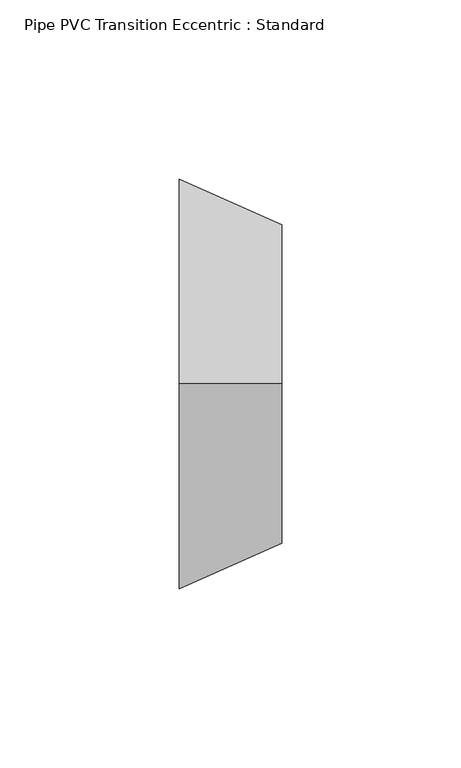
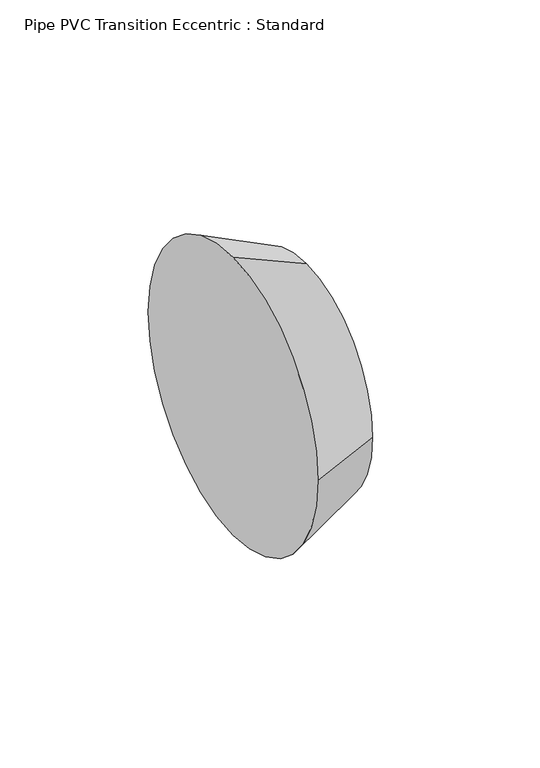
"""IFC4 building model written with IfcOpenShell, lengths in millimetres: pipe fitting geometry, Pipe PVC Transition Eccentric : Standard."""

import ifcopenshell
import ifcopenshell.guid

model = None  # the IFC model being written
_history = None  # IfcOwnerHistory: only IFC2X3 demands one
_inside = {}  # id of a spatial element -> (the spatial element, [elements in it])
_under = {}  # id of a project, library or spatial element -> (it, [spatial elements below it])
_declared = {}  # id of a project -> (the project, [libraries it declares])
_typed = {}  # id of a type object -> (the type object, [elements of that type])
_made_of = {}  # id of a material, layer set ... -> (it, [elements and type objects made of it])


def new_model(schema):
    """Start an empty IFC model of exactly this schema.

    Asked for "IFC4X3", IfcOpenShell would pick the latest addendum, in which some entities
    have other attributes; the version numbers below select the first issue.
    IFC2X3 requires an IfcOwnerHistory on every rooted entity: one is made here for all.
    """
    global model, _history
    if schema == "IFC4X3":
        model = ifcopenshell.file(schema_version=(4, 3, 0, 0))
    else:
        model = ifcopenshell.file(schema=schema)
    _inside.clear()
    _under.clear()
    _declared.clear()
    _typed.clear()
    _made_of.clear()
    _history = None
    if model.schema == "IFC2X3":
        org = make("IfcOrganization", Name="unknown")
        user = make(
            "IfcPersonAndOrganization",
            ThePerson=make("IfcPerson", FamilyName="unknown"),
            TheOrganization=org,
        )
        app = make(
            "IfcApplication",
            ApplicationDeveloper=org,
            Version="unknown",
            ApplicationFullName="unknown",
            ApplicationIdentifier="unknown",
        )
        _history = make(
            "IfcOwnerHistory",
            OwningUser=user,
            OwningApplication=app,
            ChangeAction="ADDED",
            CreationDate=0,
        )
    return model


def make(cls, **values):
    """One entity of the class cls with the attributes given. An attribute that is None is left unset."""
    return model.create_entity(
        cls, **{name: value for name, value in values.items() if value is not None}
    )


def rooted(cls, **values):
    """An entity with a GlobalId (a new one), such as an element, a storey or a relation."""
    return make(cls, GlobalId=ifcopenshell.guid.new(), OwnerHistory=_history, **values)


def si_unit(unit_type, name, prefix=None):
    """IfcSIUnit, for example si_unit("LENGTHUNIT", "METRE", prefix="MILLI")."""
    return make("IfcSIUnit", UnitType=unit_type, Prefix=prefix, Name=name)


def assignment(units):
    """IfcUnitAssignment: the units of a project."""
    return None if units is None else make("IfcUnitAssignment", Units=units)


def point(xyz):
    """IfcCartesianPoint."""
    return None if xyz is None else make("IfcCartesianPoint", Coordinates=xyz)


def direction(xyz):
    """IfcDirection."""
    return None if xyz is None else make("IfcDirection", DirectionRatios=xyz)


def frame(location, z_axis=None, x_axis=None):
    """IfcAxis2Placement3D, a coordinate frame: its origin and axes. An axis left out is left unset."""
    return make(
        "IfcAxis2Placement3D",
        Location=point(location),
        Axis=direction(z_axis),
        RefDirection=direction(x_axis),
    )


def origin():
    """The frame at (0, 0, 0) with its axes left unset."""
    return frame((0.0, 0.0, 0.0))


def place(relative_to, where):
    """IfcLocalPlacement: puts the frame where relative to a parent placement (None: the world)."""
    return make(
        "IfcLocalPlacement", PlacementRelTo=relative_to, RelativePlacement=where
    )


def context(
    kind, dimensions, precision=None, world=None, true_north=None, identifier=None
):
    """IfcGeometricRepresentationContext, for example the 3D "Model" context."""
    return make(
        "IfcGeometricRepresentationContext",
        ContextIdentifier=identifier,
        ContextType=kind,
        CoordinateSpaceDimension=dimensions,
        Precision=precision,
        WorldCoordinateSystem=world,
        TrueNorth=true_north,
    )


def project(units=None, contexts=None):
    """IfcProject with its units and contexts."""
    return rooted(
        "IfcProject",
        Name="project",
        RepresentationContexts=contexts,
        UnitsInContext=assignment(units),
    )


def spatial(cls, under=None, at=None, **own):
    """A site, building, storey or space (cls), placed at a placement, below another one or the project."""
    s = rooted(cls, ObjectPlacement=at, **own)
    if under is not None:
        _under.setdefault(under.id(), (under, []))[1].append(s)
    return s


def polyline(points):
    """IfcPolyline through the points."""
    return make("IfcPolyline", Points=[point(p) for p in points])


def circle_curve(where, radius):
    """IfcCircle in the frame where."""
    return make("IfcCircle", Position=where, Radius=radius)


def shape(context_of_items, identifier, shape_type, items):
    """IfcShapeRepresentation: the items that make up one representation, for example the "Body"."""
    return make(
        "IfcShapeRepresentation",
        ContextOfItems=context_of_items,
        RepresentationIdentifier=identifier,
        RepresentationType=shape_type,
        Items=items,
    )


def source(mapping_origin, context_of_items, identifier, shape_type, items):
    """IfcRepresentationMap: a shape defined once, which mapped items show again and again."""
    return make(
        "IfcRepresentationMap",
        MappingOrigin=mapping_origin,
        MappedRepresentation=shape(context_of_items, identifier, shape_type, items),
    )


def transform(
    local_origin,
    x_axis=None,
    y_axis=None,
    z_axis=None,
    scale=None,
    scale2=None,
    scale3=None,
    uniform=True,
):
    """IfcCartesianTransformationOperator3D, or its non-uniform kind. x_axis, y_axis, z_axis: its Axis1, 2, 3."""
    if uniform:
        return make(
            "IfcCartesianTransformationOperator3D",
            Axis1=direction(x_axis),
            Axis2=direction(y_axis),
            LocalOrigin=point(local_origin),
            Scale=scale,
            Axis3=direction(z_axis),
        )
    return make(
        "IfcCartesianTransformationOperator3DnonUniform",
        Axis1=direction(x_axis),
        Axis2=direction(y_axis),
        LocalOrigin=point(local_origin),
        Scale=scale,
        Axis3=direction(z_axis),
        Scale2=scale2,
        Scale3=scale3,
    )


def mapped(mapping_source, mapping_target):
    """IfcMappedItem: shows the shape of a source again, moved by a transform."""
    return make(
        "IfcMappedItem", MappingSource=mapping_source, MappingTarget=mapping_target
    )


def made_of(thing, what):
    """Note that an element or type object is made of a material, layer set ...; save() writes the relation."""
    if what is not None:
        _made_of.setdefault(what.id(), (what, []))[1].append(thing)
    return thing


def element(
    cls,
    number,
    at=None,
    inside=None,
    cuts=None,
    type_object=None,
    material=None,
    context=None,
    identifier="Body",
    shape_type=None,
    held_by="IfcProductDefinitionShape",
    body=None,
    shapes=None,
    **own,
):
    """One element of the class cls, such as IfcWall. Its Tag is "e" and its number.

    at: its placement. inside: the storey or other place that contains it. cuts: it is an
    opening in that element (IfcRelVoidsElement). A single representation is given by context,
    identifier, shape_type and body (its items); several are given by shapes. held_by: the class
    of the entity that holds the representations. save() writes the other relations.
    """
    e = rooted(cls, Tag="e%d" % number, ObjectPlacement=at, **own)
    if body is not None:
        shapes = [shape(context, identifier, shape_type, body)]
    if shapes is not None:
        e.Representation = make(held_by, Representations=shapes)
    if inside is not None:
        _inside.setdefault(inside.id(), (inside, []))[1].append(e)
    if cuts is not None:
        rooted(
            "IfcRelVoidsElement", RelatingBuildingElement=cuts, RelatedOpeningElement=e
        )
    if type_object is not None:
        _typed.setdefault(type_object.id(), (type_object, []))[1].append(e)
    return made_of(e, material)


def aggregate(whole, parts):
    """IfcRelAggregates: a whole, such as a stair, and the parts it consists of."""
    return rooted("IfcRelAggregates", RelatingObject=whole, RelatedObjects=parts)


def save(model, path):
    """Write the relations noted so far, then the file.

    IfcRelAggregates (storeys below a building ...), IfcRelContainedInSpatialStructure (elements
    in a storey), IfcRelDefinesByType, IfcRelAssociatesMaterial and IfcRelDeclares: one each for
    every whole, place, type object, material and project.
    """
    for whole, parts in _under.values():
        aggregate(whole, parts)
    for where, things in _inside.values():
        rooted(
            "IfcRelContainedInSpatialStructure",
            RelatedElements=things,
            RelatingStructure=where,
        )
    for kind, things in _typed.values():
        rooted("IfcRelDefinesByType", RelatedObjects=things, RelatingType=kind)
    for what, things in _made_of.values():
        rooted("IfcRelAssociatesMaterial", RelatedObjects=things, RelatingMaterial=what)
    for by, libraries in _declared.values():
        rooted("IfcRelDeclares", RelatingContext=by, RelatedDefinitions=libraries)
    model.write(path)


def plane_surface(at):
    """IfcPlane: the flat surface through the origin of the frame at, square to its z axis."""
    return make("IfcPlane", Position=at)


def revolved_surface(curve, axis_point, axis_direction):
    """IfcSurfaceOfRevolution: the curve turned about the line through axis_point along axis_direction."""
    return make(
        "IfcSurfaceOfRevolution",
        SweptCurve=make("IfcArbitraryOpenProfileDef", ProfileType="CURVE", Curve=curve),
        AxisPosition=make("IfcAxis1Placement", Location=point(axis_point), Axis=direction(axis_direction)),
    )


def advanced_brep(points, edges, surfaces, faces):
    """IfcAdvancedBrep: a solid bounded by faces that lie on surfaces and meet in shared edges.

    An edge is (start, end): straight between two places in points (the first is 0);
    or (start, end, curve); or (start, end, curve, False) where it runs against its curve.
    A face is (place in surfaces, loops), or (place, loops, False) where it looks against
    its surface's normal. A loop lists edges by number (the first is 1), with a minus sign
    where the edge is run from its end to its start. The first loop is the outer one.
    """
    corners = [point(p) for p in points]
    vertices = [make("IfcVertexPoint", VertexGeometry=c) for c in corners]
    made = []
    for start, end, *more in edges:
        made.append(
            make(
                "IfcEdgeCurve",
                EdgeStart=vertices[start],
                EdgeEnd=vertices[end],
                EdgeGeometry=more[0] if more else make("IfcPolyline", Points=[corners[start], corners[end]]),
                SameSense=more[1] if len(more) > 1 else True,
            )
        )
    hull = []
    for where, loops, *sense in faces:
        bounds = []
        for j, loop in enumerate(loops):
            ring = [make("IfcOrientedEdge", EdgeElement=made[abs(k) - 1], Orientation=k > 0) for k in loop]
            bounds.append(
                make(
                    "IfcFaceOuterBound" if j == 0 else "IfcFaceBound",
                    Bound=make("IfcEdgeLoop", EdgeList=ring),
                    Orientation=True,
                )
            )
        hull.append(make("IfcAdvancedFace", Bounds=bounds, FaceSurface=surfaces[where], SameSense=sense[0] if sense else True))
    return make("IfcAdvancedBrep", Outer=make("IfcClosedShell", CfsFaces=hull))


def pipe_pvc_transition_eccentric_standard_bb942d7d(model_context):
    return source(origin(), model_context, "Body", "AdvancedBrep", [
        advanced_brep(
        [(28.575, 0.0, 44.45), (28.575, -44.45, 0.0), (28.575, 0.0, -44.45), (28.575, 44.45, 0.0), (0.0, 0.0, 57.15), (0.0, 57.15, 0.0), (0.0, 0.0, -57.15), (0.0, -57.15, 0.0)],
        [
            (0, 1, circle_curve(frame((28.575, 0.0, 0.0), z_axis=(1.0, 0.0, 0.0), x_axis=(0.0, 0.0, 1.0)), 44.45)),
            (1, 2, circle_curve(frame((28.575, 0.0, 0.0), z_axis=(1.0, 0.0, 0.0), x_axis=(0.0, -1.0, 0.0)), 44.45)),
            (2, 3, circle_curve(frame((28.575, 0.0, 0.0), z_axis=(1.0, 0.0, 0.0), x_axis=(0.0, 0.0, -1.0)), 44.45)),
            (3, 0, circle_curve(frame((28.575, 0.0, 0.0), z_axis=(1.0, 0.0, 0.0), x_axis=(0.0, 1.0, 0.0)), 44.45)),
            (4, 5, circle_curve(frame((0.0, 0.0, 0.0), z_axis=(-1.0, 0.0, 0.0), x_axis=(0.0, 1.0, 0.0)), 57.15)),
            (5, 6, circle_curve(frame((0.0, 0.0, 0.0), z_axis=(-1.0, 0.0, 0.0), x_axis=(0.0, 0.0, -1.0)), 57.15)),
            (6, 7, circle_curve(frame((0.0, 0.0, 0.0), z_axis=(-1.0, 0.0, 0.0), x_axis=(0.0, -1.0, 0.0)), 57.15)),
            (7, 4, circle_curve(frame((0.0, 0.0, 0.0), z_axis=(-1.0, 0.0, 0.0), x_axis=(0.0, 0.0, 1.0)), 57.15)),
            (7, 1),
            (0, 4),
            (6, 2),
            (5, 3),
        ],
        [
            plane_surface(frame((28.575, 0.0, 0.0), z_axis=(1.0, 0.0, 0.0), x_axis=(0.0, -1.0, 0.0))),
            plane_surface(frame((0.0, 0.0, 0.0), z_axis=(-1.0, 0.0, 0.0), x_axis=(0.0, -1.0, 0.0))),
            revolved_surface(polyline([(28.575000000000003, 0.0, 44.45), (0.0, 0.0, 57.15)]), (128.5875, 0.0, 0.0), (-1.0, 0.0, 0.0)),
            revolved_surface(polyline([(28.575000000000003, -44.45, 0.0), (0.0, -57.15, 0.0)]), (128.5875, 0.0, 0.0), (-1.0, 0.0, 0.0)),
            revolved_surface(polyline([(28.575000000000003, 0.0, -44.45), (0.0, 0.0, -57.15)]), (128.5875, 0.0, 0.0), (-1.0, 0.0, 0.0)),
            revolved_surface(polyline([(28.575000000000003, 44.45, 0.0), (0.0, 57.15, 0.0)]), (128.5875, 0.0, 0.0), (-1.0, 0.0, 0.0)),
        ],
        [
            (0, [[1, 2, 3, 4]]),
            (1, [[5, 6, 7, 8]]),
            (2, [[-8, 9, -1, 10]]),
            (3, [[-7, 11, -2, -9]]),
            (4, [[-6, 12, -3, -11]]),
            (5, [[-5, -10, -4, -12]]),
        ],
    ),
        advanced_brep(
        [(28.575, 0.0, 44.45), (28.575, -44.45, 0.0), (28.575, 0.0, -44.45), (28.575, 44.45, 0.0), (0.0, 0.0, 57.15), (0.0, 57.15, 0.0), (0.0, 0.0, -57.15), (0.0, -57.15, 0.0)],
        [
            (0, 1, circle_curve(frame((28.575, 0.0, 0.0), z_axis=(1.0, 0.0, 0.0), x_axis=(0.0, 0.0, 1.0)), 44.45)),
            (1, 2, circle_curve(frame((28.575, 0.0, 0.0), z_axis=(1.0, 0.0, 0.0), x_axis=(0.0, -1.0, 0.0)), 44.45)),
            (2, 3, circle_curve(frame((28.575, 0.0, 0.0), z_axis=(1.0, 0.0, 0.0), x_axis=(0.0, 0.0, -1.0)), 44.45)),
            (3, 0, circle_curve(frame((28.575, 0.0, 0.0), z_axis=(1.0, 0.0, 0.0), x_axis=(0.0, 1.0, 0.0)), 44.45)),
            (4, 5, circle_curve(frame((0.0, 0.0, 0.0), z_axis=(-1.0, 0.0, 0.0), x_axis=(0.0, 1.0, 0.0)), 57.15)),
            (5, 6, circle_curve(frame((0.0, 0.0, 0.0), z_axis=(-1.0, 0.0, 0.0), x_axis=(0.0, 0.0, -1.0)), 57.15)),
            (6, 7, circle_curve(frame((0.0, 0.0, 0.0), z_axis=(-1.0, 0.0, 0.0), x_axis=(0.0, -1.0, 0.0)), 57.15)),
            (7, 4, circle_curve(frame((0.0, 0.0, 0.0), z_axis=(-1.0, 0.0, 0.0), x_axis=(0.0, 0.0, 1.0)), 57.15)),
            (7, 1),
            (0, 4),
            (6, 2),
            (5, 3),
        ],
        [
            plane_surface(frame((28.575, 0.0, 0.0), z_axis=(1.0, 0.0, 0.0), x_axis=(0.0, -1.0, 0.0))),
            plane_surface(frame((0.0, 0.0, 0.0), z_axis=(-1.0, 0.0, 0.0), x_axis=(0.0, -1.0, 0.0))),
            revolved_surface(polyline([(28.575000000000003, 0.0, 44.45), (0.0, 0.0, 57.15)]), (128.5875, 0.0, 0.0), (-1.0, 0.0, 0.0)),
            revolved_surface(polyline([(28.575000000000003, -44.45, 0.0), (0.0, -57.15, 0.0)]), (128.5875, 0.0, 0.0), (-1.0, 0.0, 0.0)),
            revolved_surface(polyline([(28.575000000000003, 0.0, -44.45), (0.0, 0.0, -57.15)]), (128.5875, 0.0, 0.0), (-1.0, 0.0, 0.0)),
            revolved_surface(polyline([(28.575000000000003, 44.45, 0.0), (0.0, 57.15, 0.0)]), (128.5875, 0.0, 0.0), (-1.0, 0.0, 0.0)),
        ],
        [
            (0, [[1, 2, 3, 4]]),
            (1, [[5, 6, 7, 8]]),
            (2, [[-8, 9, -1, 10]]),
            (3, [[-7, 11, -2, -9]]),
            (4, [[-6, 12, -3, -11]]),
            (5, [[-5, -10, -4, -12]]),
        ],
    ),
    ])


if __name__ == "__main__":
    model = new_model("IFC4")
    model_context = context("Model", 3, world=origin())
    ifc_project = project(units=[si_unit("LENGTHUNIT", "METRE", prefix="MILLI")], contexts=[model_context])
    site = spatial("IfcSite", under=ifc_project)
    building = spatial("IfcBuilding", under=site)
    placement = place(None, origin())
    pipe_pvc_transition_eccentric_standard_shape = pipe_pvc_transition_eccentric_standard_bb942d7d(model_context)
    element("IfcPipeFitting", 1, ObjectType="Pipe PVC Transition Eccentric : Standard", at=placement, inside=building, context=model_context, shape_type="MappedRepresentation", body=[
        mapped(pipe_pvc_transition_eccentric_standard_shape, transform((0.0, 0.0, 0.0), x_axis=(1.0, 0.0, 0.0), y_axis=(0.0, 1.0, 0.0), z_axis=(0.0, 0.0, 1.0))),
    ])
    save(model, "model.ifc")
